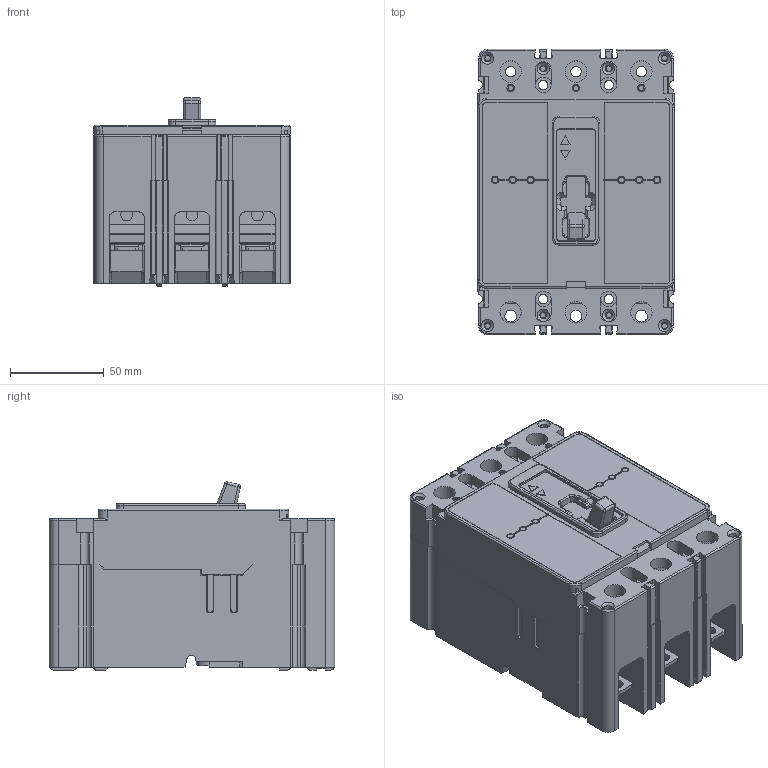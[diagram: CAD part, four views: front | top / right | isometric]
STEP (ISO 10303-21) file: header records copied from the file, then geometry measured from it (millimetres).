
FILE_DESCRIPTION((''),'2;1');
FILE_NAME('C:\Users\E0021267\Desktop\CAD Model Project\ECO-074990 - FD FIXES - In Process\EHD3_.stp','2014-12-09T16:51:40',('E0021267'),(''),'Autodesk Inventor 2013','Autodesk Inventor 2013','');
FILE_SCHEMA(('AUTOMOTIVE_DESIGN { 1 2 10303 214 0 1 1 1 }'));
Length unit declared in the file: inch
Products named in the file (1): EHD3_
Bounding box: 104.78 x 152.4 x 100.59 mm (x, y, z)
Volume: 1060505.2 mm3; surface area: 163576 mm2
Topology: 1 solids, 9 shells, 2006 faces, 5619 edges, 3628 vertices
Faces by surface type: plane 1341, cylinder 566, torus 64, cone 19, bspline 10, sphere 6
Full cylindrical faces by diameter (mm): 2.794 x3, 2.896 x8, 3.175 x6, 3.505 x1, 3.581 x6, 3.683 x8, 3.962 x9, 4.064 x8, 5.004 x4, 5.563 x3, 6.35 x6, 8.331 x4, 8.484 x4, 10.617 x4, 10.719 x4, 11.43 x6, 12.7 x3, 13.462 x3, 13.716 x3
Entity records: 66386 total; most frequent: CARTESIAN_POINT 12198, ORIENTED_EDGE 10944, DIRECTION 10774, EDGE_CURVE 5472, VECTOR 3966, LINE 3966, VERTEX_POINT 3599, AXIS2_PLACEMENT_3D 3404
